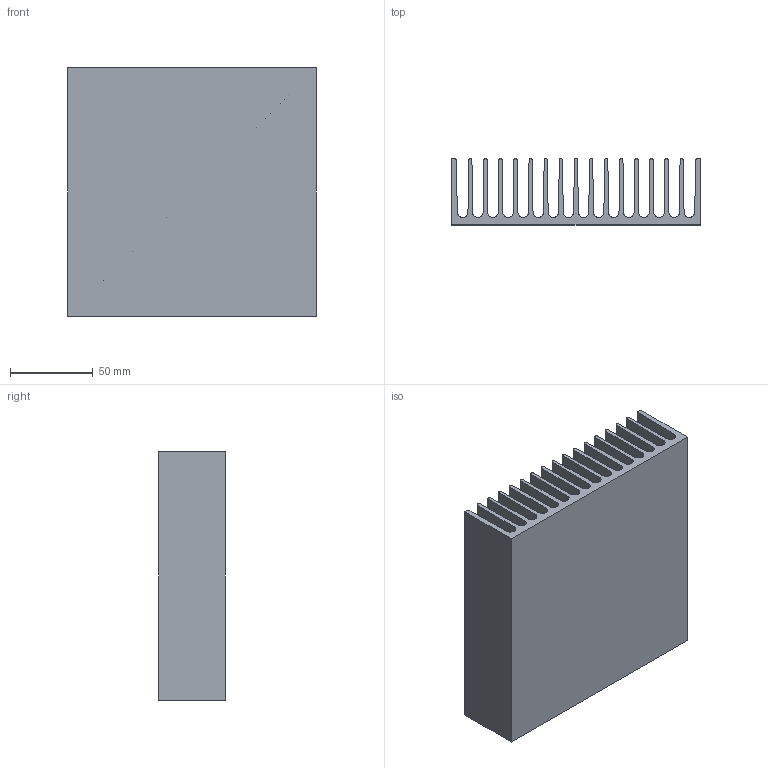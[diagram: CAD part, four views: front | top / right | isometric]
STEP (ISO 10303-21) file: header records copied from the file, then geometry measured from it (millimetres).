
FILE_DESCRIPTION (( 'STEP AP203' ), '1' );
FILE_NAME ('PR 242-150.step', '2002-10-21T08:43:19', ( 'Wolfgang Müller' ), ( 'DPS' ), 'SwSTEP 2.0', 'SolidWorks 2002264', '' );
FILE_SCHEMA (( 'CONFIG_CONTROL_DESIGN' ));
Length unit declared in the file: millimetre
Products named in the file (1): PR 242-150
Bounding box: 150 x 40 x 150 mm (x, y, z)
Volume: 338308.9 mm3; surface area: 221348.4 mm2
Topology: 1 solids, 1 shells, 72 faces, 210 edges, 140 vertices
Faces by surface type: plane 39, cylinder 33
Entity records: 2477 total; most frequent: CARTESIAN_POINT 423, DIRECTION 422, ORIENTED_EDGE 420, EDGE_CURVE 210, LINE 144, VECTOR 144, VERTEX_POINT 140, AXIS2_PLACEMENT_3D 139
